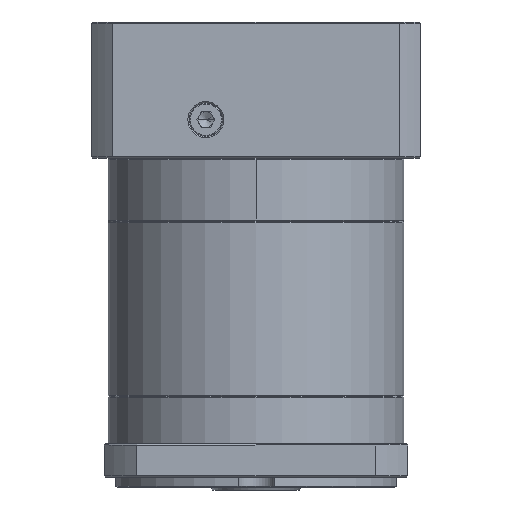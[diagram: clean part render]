
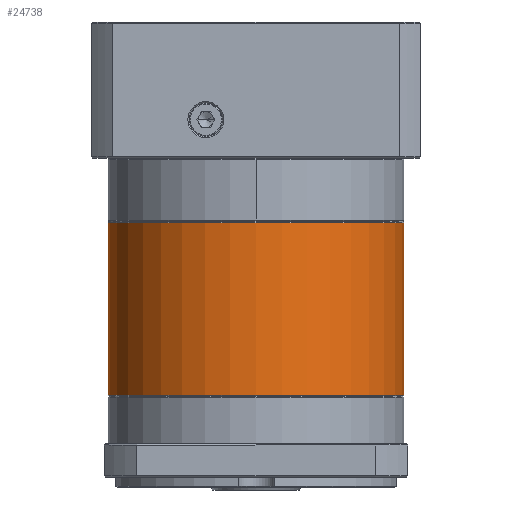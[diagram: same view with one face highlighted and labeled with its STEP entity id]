
A CAD part, front view. The second image highlights one B-rep face of the part: STEP entity #24738.
In plain terms, the highlighted cylindrical face has radius 57.5 mm (diameter 115 mm), a partial arc.
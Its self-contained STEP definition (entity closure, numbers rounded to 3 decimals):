
#561 = FACE_OUTER_BOUND ( 'NONE', #96421, .T. ) ;
#1006 = DIRECTION ( 'NONE',  ( 0., 0., -1. ) ) ;
#2863 = VERTEX_POINT ( 'NONE', #96629 ) ;
#3957 = CARTESIAN_POINT ( 'NONE',  ( 52.852, 81.618, -102.432 ) ) ;
#5931 = CARTESIAN_POINT ( 'NONE',  ( -4.648, 81.618, -102.432 ) ) ;
#10002 = DIRECTION ( 'NONE',  ( -1., 0., 0. ) ) ;
#10265 = DIRECTION ( 'NONE',  ( -1., 0., 0. ) ) ;
#12590 = DIRECTION ( 'NONE',  ( 0., 0., -1. ) ) ;
#14573 = AXIS2_PLACEMENT_3D ( 'NONE', #3957, #42618, #70342 ) ;
#15788 = VERTEX_POINT ( 'NONE', #77025 ) ;
#18464 = AXIS2_PLACEMENT_3D ( 'NONE', #45966, #86498, #86065 ) ;
#21311 = ORIENTED_EDGE ( 'NONE', *, *, #76973, .T. ) ;
#22048 = VERTEX_POINT ( 'NONE', #124457 ) ;
#24738 = ADVANCED_FACE ( 'NONE', ( #561 ), #75202, .T. ) ;
#26785 = AXIS2_PLACEMENT_3D ( 'NONE', #117127, #58728, #10265 ) ;
#26942 = CIRCLE ( 'NONE', #14573, 57.5 ) ;
#27605 = CIRCLE ( 'NONE', #26785, 57.5 ) ;
#29101 = CARTESIAN_POINT ( 'NONE',  ( 52.852, 81.618, -35.22 ) ) ;
#29611 = EDGE_CURVE ( 'NONE', #85761, #15788, #89823, .T. ) ;
#31549 = EDGE_CURVE ( 'NONE', #22048, #107441, #114036, .T. ) ;
#32435 = ORIENTED_EDGE ( 'NONE', *, *, #31549, .T. ) ;
#35138 = DIRECTION ( 'NONE',  ( 0., 0., -1. ) ) ;
#36296 = VECTOR ( 'NONE', #12590, 1000. ) ;
#42618 = DIRECTION ( 'NONE',  ( 0., 0., 1. ) ) ;
#45966 = CARTESIAN_POINT ( 'NONE',  ( 52.852, 81.618, -34.72 ) ) ;
#52191 = ORIENTED_EDGE ( 'NONE', *, *, #113451, .T. ) ;
#54861 = ORIENTED_EDGE ( 'NONE', *, *, #102225, .T. ) ;
#58728 = DIRECTION ( 'NONE',  ( 0., 0., -1. ) ) ;
#70342 = DIRECTION ( 'NONE',  ( -1., 0., 0. ) ) ;
#75202 = CYLINDRICAL_SURFACE ( 'NONE', #18464, 57.5 ) ;
#75941 = AXIS2_PLACEMENT_3D ( 'NONE', #29101, #1006, #10002 ) ;
#76185 = CIRCLE ( 'NONE', #75941, 57.5 ) ;
#76973 = EDGE_CURVE ( 'NONE', #2863, #22048, #27605, .T. ) ;
#77025 = CARTESIAN_POINT ( 'NONE',  ( 110.352, 81.618, -102.432 ) ) ;
#84190 = CARTESIAN_POINT ( 'NONE',  ( 110.352, 81.618, -34.72 ) ) ;
#85761 = VERTEX_POINT ( 'NONE', #102397 ) ;
#86065 = DIRECTION ( 'NONE',  ( -1., 0., 0. ) ) ;
#86498 = DIRECTION ( 'NONE',  ( 0., 0., -1. ) ) ;
#89823 = LINE ( 'NONE', #84190, #109570 ) ;
#92176 = CARTESIAN_POINT ( 'NONE',  ( -4.648, 81.618, -34.72 ) ) ;
#96421 = EDGE_LOOP ( 'NONE', ( #111982, #52191, #21311, #32435, #54861 ) ) ;
#96629 = CARTESIAN_POINT ( 'NONE',  ( 52.852, 24.118, -35.22 ) ) ;
#102225 = EDGE_CURVE ( 'NONE', #107441, #15788, #26942, .T. ) ;
#102397 = CARTESIAN_POINT ( 'NONE',  ( 110.352, 81.618, -35.22 ) ) ;
#107441 = VERTEX_POINT ( 'NONE', #5931 ) ;
#109570 = VECTOR ( 'NONE', #35138, 1000. ) ;
#111982 = ORIENTED_EDGE ( 'NONE', *, *, #29611, .F. ) ;
#113451 = EDGE_CURVE ( 'NONE', #85761, #2863, #76185, .T. ) ;
#114036 = LINE ( 'NONE', #92176, #36296 ) ;
#117127 = CARTESIAN_POINT ( 'NONE',  ( 52.852, 81.618, -35.22 ) ) ;
#124457 = CARTESIAN_POINT ( 'NONE',  ( -4.648, 81.618, -35.22 ) ) ;
